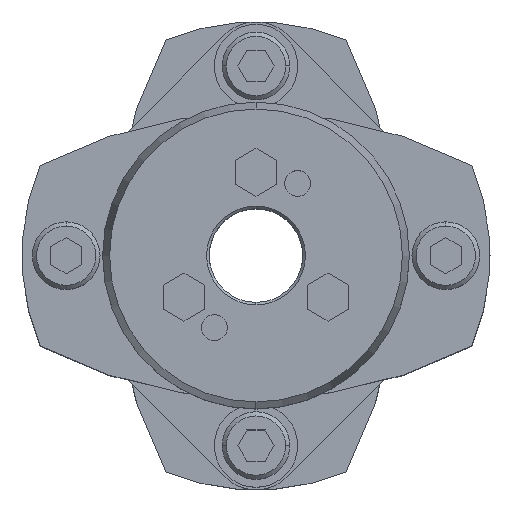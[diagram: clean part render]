
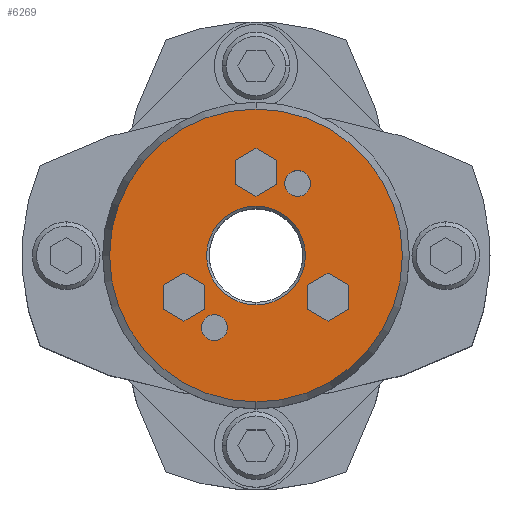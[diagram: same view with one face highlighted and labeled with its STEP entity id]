
A CAD part, top view. The second image highlights one B-rep face of the part: STEP entity #6269.
In plain terms, the highlighted planar face has unit normal (0, 0, 1).
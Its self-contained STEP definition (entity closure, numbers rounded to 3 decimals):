
#1677=CARTESIAN_POINT('',(0.,9.5,52.0));
#1678=VERTEX_POINT('',#1677);
#1694=CARTESIAN_POINT('',(0.,-9.5,52.0));
#1695=VERTEX_POINT('',#1694);
#1702=CARTESIAN_POINT('',(0.,0.,52.0));
#1703=DIRECTION('',(0.0,0.0,1.0));
#1704=DIRECTION('',(0.0,1.0,0.0));
#1705=AXIS2_PLACEMENT_3D('',#1702,#1703,#1704);
#1706=CIRCLE('',#1705,9.5);
#1707=EDGE_CURVE('',#1695,#1678,#1706,.T.);
#1865=CARTESIAN_POINT('',(0.,-28.16,52.0));
#1866=VERTEX_POINT('',#1865);
#1873=CARTESIAN_POINT('',(0.,28.16,52.0));
#1874=VERTEX_POINT('',#1873);
#1875=CARTESIAN_POINT('',(0.,0.,52.0));
#1876=DIRECTION('',(0.0,0.0,-1.0));
#1877=DIRECTION('',(0.0,-1.0,0.0));
#1878=AXIS2_PLACEMENT_3D('',#1875,#1876,#1877);
#1879=CIRCLE('',#1878,28.16);
#1880=EDGE_CURVE('',#1866,#1874,#1879,.T.);
#2123=CARTESIAN_POINT('',(8.,16.356,52.0));
#2124=VERTEX_POINT('',#2123);
#2140=CARTESIAN_POINT('',(8.,11.356,52.0));
#2141=VERTEX_POINT('',#2140);
#2148=CARTESIAN_POINT('',(8.,13.856,52.0));
#2149=DIRECTION('',(0.0,0.0,-1.0));
#2150=DIRECTION('',(0.0,1.0,0.0));
#2151=AXIS2_PLACEMENT_3D('',#2148,#2149,#2150);
#2152=CIRCLE('',#2151,2.5);
#2153=EDGE_CURVE('',#2124,#2141,#2152,.T.);
#2165=CARTESIAN_POINT('',(-8.,-11.356,52.0));
#2166=VERTEX_POINT('',#2165);
#2182=CARTESIAN_POINT('',(-8.,-16.356,52.0));
#2183=VERTEX_POINT('',#2182);
#2190=CARTESIAN_POINT('',(-8.,-13.856,52.0));
#2191=DIRECTION('',(0.0,0.0,-1.0));
#2192=DIRECTION('',(0.0,1.0,0.0));
#2193=AXIS2_PLACEMENT_3D('',#2190,#2191,#2192);
#2194=CIRCLE('',#2193,2.5);
#2195=EDGE_CURVE('',#2166,#2183,#2194,.T.);
#4785=CARTESIAN_POINT('',(13.856,-3.381,52.0));
#4786=VERTEX_POINT('',#4785);
#4793=CARTESIAN_POINT('',(9.856,-5.691,52.0));
#4794=VERTEX_POINT('',#4793);
#4795=CARTESIAN_POINT('',(9.856,-5.691,52.0));
#4796=DIRECTION('',(0.866,0.5,0.0));
#4797=VECTOR('',#4796,4.619);
#4798=LINE('',#4795,#4797);
#4799=EDGE_CURVE('',#4794,#4786,#4798,.T.);
#4823=CARTESIAN_POINT('',(17.856,-5.691,52.0));
#4824=VERTEX_POINT('',#4823);
#4831=CARTESIAN_POINT('',(13.856,-3.381,52.0));
#4832=DIRECTION('',(0.866,-0.5,0.0));
#4833=VECTOR('',#4832,4.619);
#4834=LINE('',#4831,#4833);
#4835=EDGE_CURVE('',#4786,#4824,#4834,.T.);
#4854=CARTESIAN_POINT('',(17.856,-10.309,52.0));
#4855=VERTEX_POINT('',#4854);
#4862=CARTESIAN_POINT('',(17.856,-5.691,52.0));
#4863=DIRECTION('',(0.0,-1.0,0.0));
#4864=VECTOR('',#4863,4.619);
#4865=LINE('',#4862,#4864);
#4866=EDGE_CURVE('',#4824,#4855,#4865,.T.);
#4885=CARTESIAN_POINT('',(13.856,-12.619,52.0));
#4886=VERTEX_POINT('',#4885);
#4893=CARTESIAN_POINT('',(17.856,-10.309,52.0));
#4894=DIRECTION('',(-0.866,-0.5,0.0));
#4895=VECTOR('',#4894,4.619);
#4896=LINE('',#4893,#4895);
#4897=EDGE_CURVE('',#4855,#4886,#4896,.T.);
#4916=CARTESIAN_POINT('',(9.856,-10.309,52.0));
#4917=VERTEX_POINT('',#4916);
#4924=CARTESIAN_POINT('',(13.856,-12.619,52.0));
#4925=DIRECTION('',(-0.866,0.5,0.0));
#4926=VECTOR('',#4925,4.619);
#4927=LINE('',#4924,#4926);
#4928=EDGE_CURVE('',#4886,#4917,#4927,.T.);
#4946=CARTESIAN_POINT('',(9.856,-10.309,52.0));
#4947=DIRECTION('',(0.0,1.0,0.0));
#4948=VECTOR('',#4947,4.619);
#4949=LINE('',#4946,#4948);
#4950=EDGE_CURVE('',#4917,#4794,#4949,.T.);
#4985=CARTESIAN_POINT('',(0.,20.619,52.0));
#4986=VERTEX_POINT('',#4985);
#4993=CARTESIAN_POINT('',(-4.,18.309,52.0));
#4994=VERTEX_POINT('',#4993);
#4995=CARTESIAN_POINT('',(-4.,18.309,52.0));
#4996=DIRECTION('',(0.866,0.5,0.0));
#4997=VECTOR('',#4996,4.619);
#4998=LINE('',#4995,#4997);
#4999=EDGE_CURVE('',#4994,#4986,#4998,.T.);
#5023=CARTESIAN_POINT('',(4.,18.309,52.0));
#5024=VERTEX_POINT('',#5023);
#5031=CARTESIAN_POINT('',(0.,20.619,52.0));
#5032=DIRECTION('',(0.866,-0.5,0.0));
#5033=VECTOR('',#5032,4.619);
#5034=LINE('',#5031,#5033);
#5035=EDGE_CURVE('',#4986,#5024,#5034,.T.);
#5054=CARTESIAN_POINT('',(4.,13.691,52.0));
#5055=VERTEX_POINT('',#5054);
#5062=CARTESIAN_POINT('',(4.,18.309,52.0));
#5063=DIRECTION('',(0.0,-1.0,0.0));
#5064=VECTOR('',#5063,4.619);
#5065=LINE('',#5062,#5064);
#5066=EDGE_CURVE('',#5024,#5055,#5065,.T.);
#5085=CARTESIAN_POINT('',(0.,11.381,52.0));
#5086=VERTEX_POINT('',#5085);
#5093=CARTESIAN_POINT('',(4.,13.691,52.0));
#5094=DIRECTION('',(-0.866,-0.5,0.0));
#5095=VECTOR('',#5094,4.619);
#5096=LINE('',#5093,#5095);
#5097=EDGE_CURVE('',#5055,#5086,#5096,.T.);
#5116=CARTESIAN_POINT('',(-4.,13.691,52.0));
#5117=VERTEX_POINT('',#5116);
#5124=CARTESIAN_POINT('',(0.,11.381,52.0));
#5125=DIRECTION('',(-0.866,0.5,0.0));
#5126=VECTOR('',#5125,4.619);
#5127=LINE('',#5124,#5126);
#5128=EDGE_CURVE('',#5086,#5117,#5127,.T.);
#5146=CARTESIAN_POINT('',(-4.,13.691,52.0));
#5147=DIRECTION('',(0.0,1.0,0.0));
#5148=VECTOR('',#5147,4.619);
#5149=LINE('',#5146,#5148);
#5150=EDGE_CURVE('',#5117,#4994,#5149,.T.);
#5185=CARTESIAN_POINT('',(-13.856,-3.381,52.0));
#5186=VERTEX_POINT('',#5185);
#5193=CARTESIAN_POINT('',(-17.856,-5.691,52.0));
#5194=VERTEX_POINT('',#5193);
#5195=CARTESIAN_POINT('',(-17.856,-5.691,52.0));
#5196=DIRECTION('',(0.866,0.5,0.0));
#5197=VECTOR('',#5196,4.619);
#5198=LINE('',#5195,#5197);
#5199=EDGE_CURVE('',#5194,#5186,#5198,.T.);
#5223=CARTESIAN_POINT('',(-9.856,-5.691,52.0));
#5224=VERTEX_POINT('',#5223);
#5231=CARTESIAN_POINT('',(-13.856,-3.381,52.0));
#5232=DIRECTION('',(0.866,-0.5,0.0));
#5233=VECTOR('',#5232,4.619);
#5234=LINE('',#5231,#5233);
#5235=EDGE_CURVE('',#5186,#5224,#5234,.T.);
#5254=CARTESIAN_POINT('',(-9.856,-10.309,52.0));
#5255=VERTEX_POINT('',#5254);
#5262=CARTESIAN_POINT('',(-9.856,-5.691,52.0));
#5263=DIRECTION('',(0.0,-1.0,0.0));
#5264=VECTOR('',#5263,4.619);
#5265=LINE('',#5262,#5264);
#5266=EDGE_CURVE('',#5224,#5255,#5265,.T.);
#5285=CARTESIAN_POINT('',(-13.856,-12.619,52.0));
#5286=VERTEX_POINT('',#5285);
#5293=CARTESIAN_POINT('',(-9.856,-10.309,52.0));
#5294=DIRECTION('',(-0.866,-0.5,0.0));
#5295=VECTOR('',#5294,4.619);
#5296=LINE('',#5293,#5295);
#5297=EDGE_CURVE('',#5255,#5286,#5296,.T.);
#5316=CARTESIAN_POINT('',(-17.856,-10.309,52.0));
#5317=VERTEX_POINT('',#5316);
#5324=CARTESIAN_POINT('',(-13.856,-12.619,52.0));
#5325=DIRECTION('',(-0.866,0.5,0.0));
#5326=VECTOR('',#5325,4.619);
#5327=LINE('',#5324,#5326);
#5328=EDGE_CURVE('',#5286,#5317,#5327,.T.);
#5346=CARTESIAN_POINT('',(-17.856,-10.309,52.0));
#5347=DIRECTION('',(0.0,1.0,0.0));
#5348=VECTOR('',#5347,4.619);
#5349=LINE('',#5346,#5348);
#5350=EDGE_CURVE('',#5317,#5194,#5349,.T.);
#5376=CARTESIAN_POINT('',(-8.,-13.856,52.0));
#5377=DIRECTION('',(0.0,0.0,-1.0));
#5378=DIRECTION('',(0.0,1.0,0.0));
#5379=AXIS2_PLACEMENT_3D('',#5376,#5377,#5378);
#5380=CIRCLE('',#5379,2.5);
#5381=EDGE_CURVE('',#2183,#2166,#5380,.T.);
#5410=CARTESIAN_POINT('',(8.,13.856,52.0));
#5411=DIRECTION('',(0.0,0.0,-1.0));
#5412=DIRECTION('',(0.0,1.0,0.0));
#5413=AXIS2_PLACEMENT_3D('',#5410,#5411,#5412);
#5414=CIRCLE('',#5413,2.5);
#5415=EDGE_CURVE('',#2141,#2124,#5414,.T.);
#6208=CARTESIAN_POINT('',(0.,0.,52.0));
#6209=DIRECTION('',(0.0,0.0,-1.0));
#6210=DIRECTION('',(0.0,-1.0,0.0));
#6211=AXIS2_PLACEMENT_3D('',#6208,#6209,#6210);
#6212=CIRCLE('',#6211,28.16);
#6213=EDGE_CURVE('',#1874,#1866,#6212,.T.);
#6218=CARTESIAN_POINT('',(0.,2.682,52.0));
#6219=DIRECTION('',(0.0,0.0,1.0));
#6220=DIRECTION('',(0.0,1.0,0.0));
#6221=AXIS2_PLACEMENT_3D('',#6218,#6219,#6220);
#6222=PLANE('',#6221);
#6223=ORIENTED_EDGE('',*,*,#6213,.F.);
#6224=ORIENTED_EDGE('',*,*,#1880,.F.);
#6225=EDGE_LOOP('',(#6223,#6224));
#6226=FACE_OUTER_BOUND('',#6225,.T.);
#6227=ORIENTED_EDGE('',*,*,#4799,.T.);
#6228=ORIENTED_EDGE('',*,*,#4835,.T.);
#6229=ORIENTED_EDGE('',*,*,#4866,.T.);
#6230=ORIENTED_EDGE('',*,*,#4897,.T.);
#6231=ORIENTED_EDGE('',*,*,#4928,.T.);
#6232=ORIENTED_EDGE('',*,*,#4950,.T.);
#6233=EDGE_LOOP('',(#6227,#6228,#6229,#6230,#6231,#6232));
#6234=FACE_BOUND('',#6233,.T.);
#6235=ORIENTED_EDGE('',*,*,#4999,.T.);
#6236=ORIENTED_EDGE('',*,*,#5035,.T.);
#6237=ORIENTED_EDGE('',*,*,#5066,.T.);
#6238=ORIENTED_EDGE('',*,*,#5097,.T.);
#6239=ORIENTED_EDGE('',*,*,#5128,.T.);
#6240=ORIENTED_EDGE('',*,*,#5150,.T.);
#6241=EDGE_LOOP('',(#6235,#6236,#6237,#6238,#6239,#6240));
#6242=FACE_BOUND('',#6241,.T.);
#6243=ORIENTED_EDGE('',*,*,#5199,.T.);
#6244=ORIENTED_EDGE('',*,*,#5235,.T.);
#6245=ORIENTED_EDGE('',*,*,#5266,.T.);
#6246=ORIENTED_EDGE('',*,*,#5297,.T.);
#6247=ORIENTED_EDGE('',*,*,#5328,.T.);
#6248=ORIENTED_EDGE('',*,*,#5350,.T.);
#6249=EDGE_LOOP('',(#6243,#6244,#6245,#6246,#6247,#6248));
#6250=FACE_BOUND('',#6249,.T.);
#6251=ORIENTED_EDGE('',*,*,#2195,.T.);
#6252=ORIENTED_EDGE('',*,*,#5381,.T.);
#6253=EDGE_LOOP('',(#6251,#6252));
#6254=FACE_BOUND('',#6253,.T.);
#6255=ORIENTED_EDGE('',*,*,#2153,.T.);
#6256=ORIENTED_EDGE('',*,*,#5415,.T.);
#6257=EDGE_LOOP('',(#6255,#6256));
#6258=FACE_BOUND('',#6257,.T.);
#6259=ORIENTED_EDGE('',*,*,#1707,.F.);
#6260=CARTESIAN_POINT('',(0.,0.,52.0));
#6261=DIRECTION('',(0.0,0.0,1.0));
#6262=DIRECTION('',(0.0,1.0,0.0));
#6263=AXIS2_PLACEMENT_3D('',#6260,#6261,#6262);
#6264=CIRCLE('',#6263,9.5);
#6265=EDGE_CURVE('',#1678,#1695,#6264,.T.);
#6266=ORIENTED_EDGE('',*,*,#6265,.F.);
#6267=EDGE_LOOP('',(#6259,#6266));
#6268=FACE_BOUND('',#6267,.T.);
#6269=ADVANCED_FACE('',(#6226,#6234,#6242,#6250,#6254,#6258,#6268),#6222,.T.);
